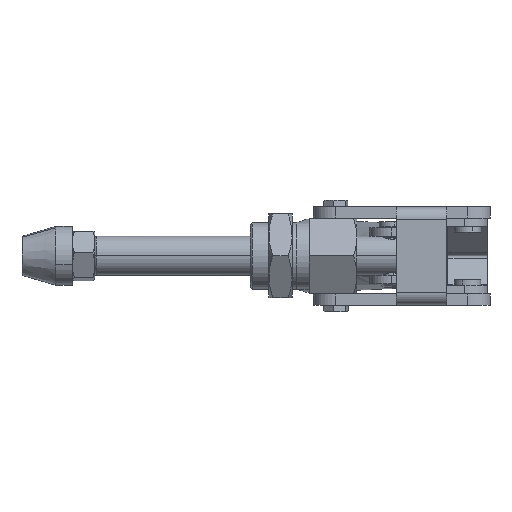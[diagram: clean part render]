
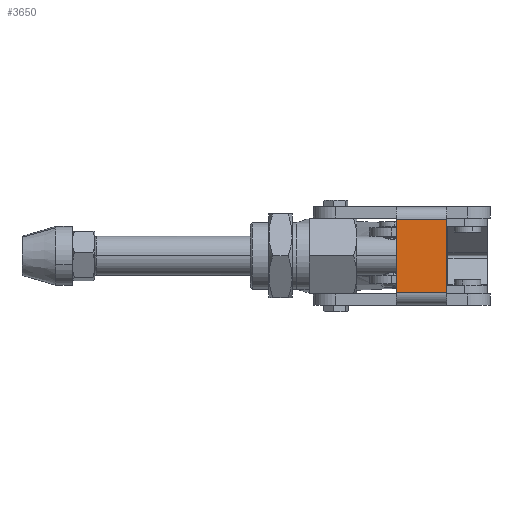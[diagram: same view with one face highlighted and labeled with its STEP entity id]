
A CAD part, front view. The second image highlights one B-rep face of the part: STEP entity #3650.
In plain terms, the highlighted planar face has unit normal (0, -1, 0).
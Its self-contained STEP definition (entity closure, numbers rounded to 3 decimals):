
#264 = VECTOR ( 'NONE', #8100, 1000. ) ;
#376 = VECTOR ( 'NONE', #6276, 1000. ) ;
#831 = CARTESIAN_POINT ( 'NONE',  ( 0., -12.5, 0. ) ) ;
#926 = DIRECTION ( 'NONE',  ( 0., 0., 1. ) ) ;
#1119 = ORIENTED_EDGE ( 'NONE', *, *, #18327, .F. ) ;
#2371 = VERTEX_POINT ( 'NONE', #13805 ) ;
#2502 = AXIS2_PLACEMENT_3D ( 'NONE', #831, #4115, #926 ) ;
#3011 = VERTEX_POINT ( 'NONE', #7652 ) ;
#3650 = ADVANCED_FACE ( 'NONE', ( #7398 ), #8758, .F. ) ;
#3783 = LINE ( 'NONE', #5005, #264 ) ;
#4115 = DIRECTION ( 'NONE',  ( 0., 1., 0. ) ) ;
#5005 = CARTESIAN_POINT ( 'NONE',  ( -16.1, -12.5, -30.6 ) ) ;
#5218 = VECTOR ( 'NONE', #20290, 1000. ) ;
#6276 = DIRECTION ( 'NONE',  ( 0., 0., 1. ) ) ;
#7011 = EDGE_CURVE ( 'NONE', #18530, #19195, #17776, .T. ) ;
#7398 = FACE_OUTER_BOUND ( 'NONE', #17966, .T. ) ;
#7652 = CARTESIAN_POINT ( 'NONE',  ( 1.9, -12.5, -30.6 ) ) ;
#8100 = DIRECTION ( 'NONE',  ( -1., 0., 0. ) ) ;
#8277 = CARTESIAN_POINT ( 'NONE',  ( -16.1, -12.5, -17.55 ) ) ;
#8758 = PLANE ( 'NONE',  #2502 ) ;
#9483 = LINE ( 'NONE', #12479, #376 ) ;
#9925 = DIRECTION ( 'NONE',  ( 0., 0., -1. ) ) ;
#12479 = CARTESIAN_POINT ( 'NONE',  ( 1.9, -12.5, -4. ) ) ;
#12562 = CARTESIAN_POINT ( 'NONE',  ( 0., -12.5, -4.5 ) ) ;
#12667 = LINE ( 'NONE', #12562, #5218 ) ;
#13805 = CARTESIAN_POINT ( 'NONE',  ( 1.9, -12.5, -4.5 ) ) ;
#14354 = ORIENTED_EDGE ( 'NONE', *, *, #19160, .F. ) ;
#15015 = VECTOR ( 'NONE', #9925, 1000. ) ;
#15937 = EDGE_CURVE ( 'NONE', #3011, #2371, #9483, .T. ) ;
#17390 = ORIENTED_EDGE ( 'NONE', *, *, #15937, .T. ) ;
#17481 = ORIENTED_EDGE ( 'NONE', *, *, #7011, .T. ) ;
#17776 = LINE ( 'NONE', #8277, #15015 ) ;
#17966 = EDGE_LOOP ( 'NONE', ( #17481, #1119, #17390, #14354 ) ) ;
#18327 = EDGE_CURVE ( 'NONE', #3011, #19195, #3783, .T. ) ;
#18530 = VERTEX_POINT ( 'NONE', #19844 ) ;
#19060 = CARTESIAN_POINT ( 'NONE',  ( -16.1, -12.5, -30.6 ) ) ;
#19160 = EDGE_CURVE ( 'NONE', #18530, #2371, #12667, .T. ) ;
#19195 = VERTEX_POINT ( 'NONE', #19060 ) ;
#19844 = CARTESIAN_POINT ( 'NONE',  ( -16.1, -12.5, -4.5 ) ) ;
#20290 = DIRECTION ( 'NONE',  ( 1., 0., 0. ) ) ;
